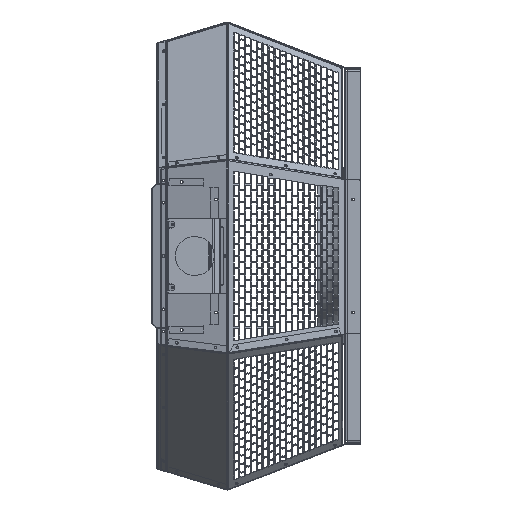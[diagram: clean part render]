
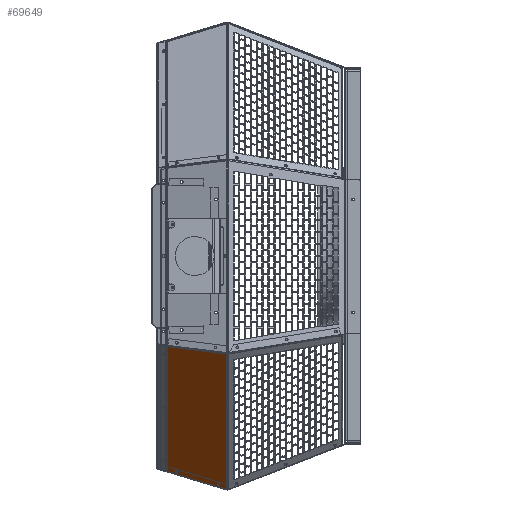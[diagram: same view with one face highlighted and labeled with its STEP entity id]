
A CAD part, left-side view. The second image highlights one B-rep face of the part: STEP entity #69649.
In plain terms, the highlighted planar face has unit normal (-0.677, 0.288, -0.677).
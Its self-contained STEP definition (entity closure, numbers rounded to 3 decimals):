
#3800 = VERTEX_POINT ( 'NONE', #55444 ) ;
#3819 = VERTEX_POINT ( 'NONE', #55467 ) ;
#3834 = VERTEX_POINT ( 'NONE', #55484 ) ;
#3840 = VERTEX_POINT ( 'NONE', #55492 ) ;
#3922 = VERTEX_POINT ( 'NONE', #55591 ) ;
#25706 = AXIS2_PLACEMENT_3D ( 'NONE', #100275, #100257, #100292 ) ;
#33476 = AXIS2_PLACEMENT_3D ( 'NONE', #184413, #184415, #184417 ) ;
#33509 = AXIS2_PLACEMENT_3D ( 'NONE', #184592, #184593, #184594 ) ;
#33522 = AXIS2_PLACEMENT_3D ( 'NONE', #184721, #184722, #184723 ) ;
#33525 = AXIS2_PLACEMENT_3D ( 'NONE', #184735, #184736, #184737 ) ;
#36562 = EDGE_LOOP ( 'NONE', ( #218718, #218710 ) ) ;
#36572 = EDGE_LOOP ( 'NONE', ( #218734, #218726 ) ) ;
#36583 = EDGE_LOOP ( 'NONE', ( #218702, #218694, #218652, #218644, #218552, #218543, #218569, #218561 ) ) ;
#55444 = CARTESIAN_POINT ( 'NONE',  ( -154.477, 189.351, -372.259 ) ) ;
#55467 = CARTESIAN_POINT ( 'NONE',  ( -370.195, 190.113, -156.018 ) ) ;
#55484 = CARTESIAN_POINT ( 'NONE',  ( -142.638, 284.128, -343.763 ) ) ;
#55492 = CARTESIAN_POINT ( 'NONE',  ( -341.906, 284.061, -144.339 ) ) ;
#55591 = CARTESIAN_POINT ( 'NONE',  ( -156.446, 204.926, -363.658 ) ) ;
#69649 = ADVANCED_FACE ( 'NONE', ( #171901, #171909, #171894 ), #100286, .F. ) ;
#100257 = DIRECTION ( 'NONE',  ( 0.677, -0.288, 0.677 ) ) ;
#100275 = CARTESIAN_POINT ( 'NONE',  ( -372.248, 188.628, -154.594 ) ) ;
#100286 = PLANE ( 'NONE',  #25706 ) ;
#100292 = DIRECTION ( 'NONE',  ( 0.204, 0.958, 0.203 ) ) ;
#113550 = VERTEX_POINT ( 'NONE', #177964 ) ;
#113594 = VERTEX_POINT ( 'NONE', #178007 ) ;
#113596 = VERTEX_POINT ( 'NONE', #178008 ) ;
#113812 = VERTEX_POINT ( 'NONE', #178209 ) ;
#114139 = VERTEX_POINT ( 'NONE', #178500 ) ;
#114230 = VERTEX_POINT ( 'NONE', #178533 ) ;
#114975 = VERTEX_POINT ( 'NONE', #229623 ) ;
#120818 = CIRCLE ( 'NONE', #33476, 2.1 ) ;
#171894 = FACE_OUTER_BOUND ( 'NONE', #36583, .T. ) ;
#171901 = FACE_BOUND ( 'NONE', #36562, .T. ) ;
#171909 = FACE_BOUND ( 'NONE', #36572, .T. ) ;
#177964 = CARTESIAN_POINT ( 'NONE',  ( -157.302, 200.904, -364.513 ) ) ;
#178007 = CARTESIAN_POINT ( 'NONE',  ( -148.139, 271.486, -343.639 ) ) ;
#178008 = CARTESIAN_POINT ( 'NONE',  ( -148.995, 267.464, -344.493 ) ) ;
#178209 = CARTESIAN_POINT ( 'NONE',  ( -341.55, 284.061, -144.696 ) ) ;
#178500 = CARTESIAN_POINT ( 'NONE',  ( -370.191, 189.414, -156.319 ) ) ;
#178533 = CARTESIAN_POINT ( 'NONE',  ( -341.512, 284.187, -144.68 ) ) ;
#184413 = CARTESIAN_POINT ( 'NONE',  ( -148.567, 269.475, -344.066 ) ) ;
#184415 = DIRECTION ( 'NONE',  ( 0.677, -0.288, 0.677 ) ) ;
#184417 = DIRECTION ( 'NONE',  ( 0.204, 0.958, 0.203 ) ) ;
#184592 = CARTESIAN_POINT ( 'NONE',  ( -156.874, 202.915, -364.086 ) ) ;
#184593 = DIRECTION ( 'NONE',  ( 0.677, -0.288, 0.677 ) ) ;
#184594 = DIRECTION ( 'NONE',  ( 0.204, 0.958, 0.203 ) ) ;
#184615 = CARTESIAN_POINT ( 'NONE',  ( -370.486, 189.147, -156.138 ) ) ;
#184617 = DIRECTION ( 'NONE',  ( 0.286, 0.951, 0.118 ) ) ;
#184682 = CARTESIAN_POINT ( 'NONE',  ( -142.613, 284.326, -343.703 ) ) ;
#184683 = DIRECTION ( 'NONE',  ( 0.119, 0.951, 0.286 ) ) ;
#184721 = CARTESIAN_POINT ( 'NONE',  ( -148.567, 269.475, -344.066 ) ) ;
#184722 = DIRECTION ( 'NONE',  ( 0.677, -0.288, 0.677 ) ) ;
#184723 = DIRECTION ( 'NONE',  ( 0.204, 0.958, 0.203 ) ) ;
#184734 = CARTESIAN_POINT ( 'NONE',  ( -370.38, 188.315, -156.597 ) ) ;
#184735 = CARTESIAN_POINT ( 'NONE',  ( -156.874, 202.915, -364.086 ) ) ;
#184736 = DIRECTION ( 'NONE',  ( 0.677, -0.288, 0.677 ) ) ;
#184737 = DIRECTION ( 'NONE',  ( 0.204, 0.958, 0.203 ) ) ;
#184739 = DIRECTION ( 'NONE',  ( -0.286, -0.951, -0.118 ) ) ;
#184742 = CARTESIAN_POINT ( 'NONE',  ( -370.461, 188.146, -156.589 ) ) ;
#184748 = CARTESIAN_POINT ( 'NONE',  ( -341.55, 284.061, -144.696 ) ) ;
#184749 = DIRECTION ( 'NONE',  ( -0.707, 0., 0.707 ) ) ;
#184750 = CARTESIAN_POINT ( 'NONE',  ( -351.893, 284.19, -134.288 ) ) ;
#184751 = DIRECTION ( 'NONE',  ( -0.707, 0., 0.707 ) ) ;
#184752 = CARTESIAN_POINT ( 'NONE',  ( -372.081, 189.415, -154.427 ) ) ;
#184754 = DIRECTION ( 'NONE',  ( 0.707, 0., -0.707 ) ) ;
#184755 = DIRECTION ( 'NONE',  ( -0.204, -0.958, -0.203 ) ) ;
#184756 = CARTESIAN_POINT ( 'NONE',  ( -378.388, 193.052, -146.566 ) ) ;
#184757 = DIRECTION ( 'NONE',  ( 0.638, -0.229, -0.736 ) ) ;
#218543 = ORIENTED_EDGE ( 'NONE', *, *, #219951, .F. ) ;
#218552 = ORIENTED_EDGE ( 'NONE', *, *, #219887, .F. ) ;
#218561 = ORIENTED_EDGE ( 'NONE', *, *, #219956, .F. ) ;
#218569 = ORIENTED_EDGE ( 'NONE', *, *, #219953, .F. ) ;
#218644 = ORIENTED_EDGE ( 'NONE', *, *, #219948, .F. ) ;
#218652 = ORIENTED_EDGE ( 'NONE', *, *, #219937, .F. ) ;
#218694 = ORIENTED_EDGE ( 'NONE', *, *, #219945, .F. ) ;
#218702 = ORIENTED_EDGE ( 'NONE', *, *, #219810, .T. ) ;
#218710 = ORIENTED_EDGE ( 'NONE', *, *, #219794, .T. ) ;
#218718 = ORIENTED_EDGE ( 'NONE', *, *, #219932, .T. ) ;
#218726 = ORIENTED_EDGE ( 'NONE', *, *, #219699, .T. ) ;
#218734 = ORIENTED_EDGE ( 'NONE', *, *, #219924, .T. ) ;
#219699 = EDGE_CURVE ( 'NONE', #113596, #113594, #120818, .T. ) ;
#219794 = EDGE_CURVE ( 'NONE', #113550, #3922, #254928, .T. ) ;
#219810 = EDGE_CURVE ( 'NONE', #3819, #3840, #254944, .T. ) ;
#219887 = EDGE_CURVE ( 'NONE', #3800, #3834, #255092, .T. ) ;
#219924 = EDGE_CURVE ( 'NONE', #113594, #113596, #255152, .T. ) ;
#219932 = EDGE_CURVE ( 'NONE', #3922, #113550, #255153, .T. ) ;
#219937 = EDGE_CURVE ( 'NONE', #114230, #113812, #255133, .T. ) ;
#219945 = EDGE_CURVE ( 'NONE', #113812, #3840, #255167, .T. ) ;
#219948 = EDGE_CURVE ( 'NONE', #3834, #114230, #255162, .T. ) ;
#219951 = EDGE_CURVE ( 'NONE', #114139, #3800, #255171, .T. ) ;
#219953 = EDGE_CURVE ( 'NONE', #114975, #114139, #255159, .T. ) ;
#219956 = EDGE_CURVE ( 'NONE', #3819, #114975, #255179, .T. ) ;
#229623 = CARTESIAN_POINT ( 'NONE',  ( -370.053, 190.062, -156.182 ) ) ;
#254928 = CIRCLE ( 'NONE', #33509, 2.1 ) ;
#254944 = LINE ( 'NONE', #184615, #254951 ) ;
#254951 = VECTOR ( 'NONE', #184617, 1000. ) ;
#255092 = LINE ( 'NONE', #184682, #255101 ) ;
#255101 = VECTOR ( 'NONE', #184683, 1000. ) ;
#255133 = LINE ( 'NONE', #184734, #255164 ) ;
#255152 = CIRCLE ( 'NONE', #33522, 2.1 ) ;
#255153 = CIRCLE ( 'NONE', #33525, 2.1 ) ;
#255159 = LINE ( 'NONE', #184742, #255181 ) ;
#255162 = LINE ( 'NONE', #184750, #255173 ) ;
#255164 = VECTOR ( 'NONE', #184739, 1000. ) ;
#255167 = LINE ( 'NONE', #184748, #255169 ) ;
#255169 = VECTOR ( 'NONE', #184749, 1000. ) ;
#255171 = LINE ( 'NONE', #184752, #255177 ) ;
#255173 = VECTOR ( 'NONE', #184751, 1000. ) ;
#255177 = VECTOR ( 'NONE', #184754, 1000. ) ;
#255179 = LINE ( 'NONE', #184756, #255184 ) ;
#255181 = VECTOR ( 'NONE', #184755, 1000. ) ;
#255184 = VECTOR ( 'NONE', #184757, 1000. ) ;
